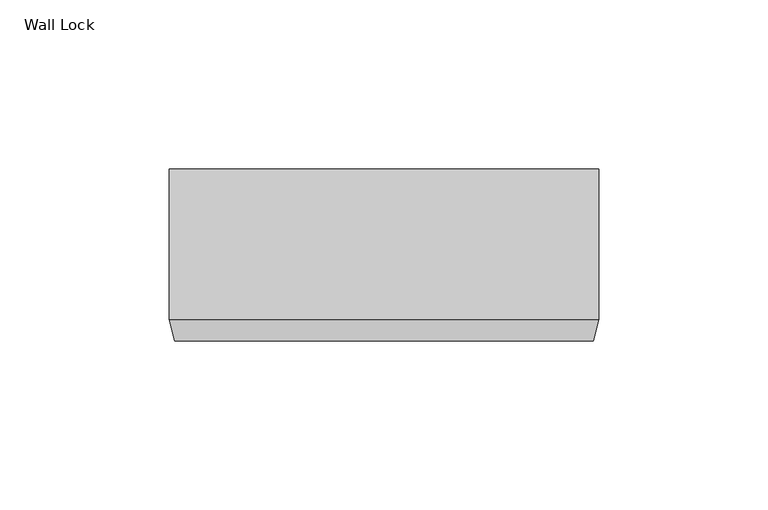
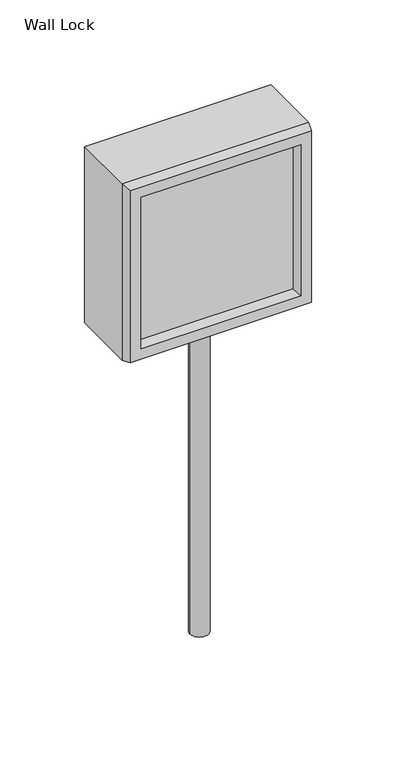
"""IFC4 building model written with IfcOpenShell, lengths in millimetres: furniture geometry, HermanMiller_Carts_CT708_WallLock : Wall Lock."""

from ifc_helpers import new_model, si_unit, frame, origin, place, context, project, spatial, circle_curve, source, transform, mapped, element, save
from ifc_brep_helpers import plane_surface, cylinder_surface, advanced_brep


def wall_lock_8c3d628b(model_context):
    return source(origin(), model_context, "Body", "AdvancedBrep", [
        advanced_brep(
        [(63.5, 0.0, 1196.9813846), (-63.5, 0.0, 1196.9813846), (-63.5, -44.45, 1196.9813846), (63.5, -44.45, 1196.9813846), (63.5, 0.0, 1069.9813846), (63.5, -44.45, 1069.9813846), (-63.5, -44.45, 1069.9813846), (-63.5, 0.0, 1069.9813846), (-6.35, -25.4, 1069.9813846), (6.35, -25.4, 1069.9813846), (-52.738532, -44.45, 1186.2199166), (-52.738532, -44.45, 1080.7428526), (52.738532, -44.45, 1080.7428526), (52.738532, -44.45, 1186.2199166), (-61.7985226, -50.8, 1071.682862), (-61.7985226, -50.8, 1195.2799073), (-54.4400094, -50.8, 1079.0413752), (-54.4400094, -50.8, 1187.921394), (61.7985226, -50.8, 1195.2799073), (54.4400094, -50.8, 1187.921394), (61.7985226, -50.8, 1071.682862), (54.4400094, -50.8, 1079.0413752), (-6.35, -25.4, 841.3813846), (6.35, -25.4, 841.3813846)],
        [
            (0, 1),
            (1, 2),
            (2, 3),
            (3, 0),
            (4, 5),
            (5, 6),
            (6, 7),
            (7, 4),
            (8, 9, circle_curve(frame((0.0, -25.4, 1069.9813846), z_axis=(0.0, 0.0, 1.0), x_axis=(1.0, 0.0, 0.0)), 6.35)),
            (9, 8, circle_curve(frame((0.0, -25.4, 1069.9813846), z_axis=(0.0, 0.0, 1.0), x_axis=(1.0, 0.0, 0.0)), 6.35)),
            (0, 4),
            (7, 1),
            (6, 2),
            (10, 11),
            (11, 12),
            (12, 13),
            (13, 10),
            (3, 5),
            (6, 14),
            (14, 15),
            (15, 2),
            (16, 11),
            (10, 17),
            (17, 16),
            (15, 18),
            (18, 3),
            (13, 19),
            (19, 17),
            (18, 20),
            (20, 5),
            (12, 21),
            (21, 19),
            (20, 14),
            (16, 21),
            (22, 23, circle_curve(frame((0.0, -25.4, 841.3813846), z_axis=(0.0, 0.0, -1.0), x_axis=(1.0, 0.0, 0.0)), 6.35)),
            (23, 22, circle_curve(frame((0.0, -25.4, 841.3813846), z_axis=(0.0, 0.0, -1.0), x_axis=(1.0, 0.0, 0.0)), 6.35)),
            (23, 9),
            (8, 22),
        ],
        [
            plane_surface(frame((-70.4155875, 0.0, 1196.9813846), z_axis=(0.0, 0.0, 1.0), x_axis=(-1.0, 0.0, 0.0))),
            plane_surface(frame((-70.4155875, 0.0, 1069.9813846), z_axis=(0.0, 0.0, -1.0), x_axis=(1.0, 0.0, 0.0))),
            plane_surface(frame((63.5, 0.0, 1196.9813846), z_axis=(0.0, 1.0, 0.0), x_axis=(0.0, 0.0, -1.0))),
            plane_surface(frame((-63.5, 0.0, 1196.9813846), z_axis=(-1.0, 0.0, 0.0), x_axis=(0.0, 0.0, -1.0))),
            plane_surface(frame((-63.5, -44.45, 1196.9813846), z_axis=(0.0, -1.0, 0.0), x_axis=(0.0, 0.0, -1.0))),
            plane_surface(frame((63.5, -44.45, 1196.9813846), z_axis=(1.0, 0.0, 0.0), x_axis=(0.0, 0.0, -1.0))),
            plane_surface(frame((-61.7985226, -50.8, 1071.682862), z_axis=(-0.9659258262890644, -0.2588190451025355, 0.0), x_axis=(0.0, 0.0, 1.0))),
            plane_surface(frame((-52.738532, -44.45, 1080.7428526), z_axis=(0.9659258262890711, -0.25881904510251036, 0.0), x_axis=(0.0, 0.0, 1.0))),
            plane_surface(frame((-61.7985226, -50.8, 1195.2799073), z_axis=(0.0, -0.2588190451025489, 0.9659258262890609), x_axis=(1.0, 0.0, 0.0))),
            plane_surface(frame((-52.738532, -44.45, 1186.2199166), z_axis=(0.0, -0.258819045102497, -0.9659258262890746), x_axis=(1.0, 0.0, 0.0))),
            plane_surface(frame((61.7985226, -50.8, 1195.2799073), z_axis=(0.9659258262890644, -0.2588190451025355, 0.0), x_axis=(0.0, 0.0, -1.0))),
            plane_surface(frame((52.738532, -44.45, 1186.2199166), z_axis=(-0.9659258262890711, -0.25881904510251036, 0.0), x_axis=(0.0, 0.0, -1.0))),
            plane_surface(frame((61.7985226, -50.8, 1071.682862), z_axis=(0.0, -0.2588190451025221, -0.965925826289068), x_axis=(-1.0, 0.0, 0.0))),
            plane_surface(frame((52.738532, -44.45, 1080.7428526), z_axis=(0.0, -0.25881904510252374, 0.9659258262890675), x_axis=(-1.0, 0.0, 0.0))),
            plane_surface(frame((54.4400094, -50.8, 1079.0413752), z_axis=(0.0, -1.0, 0.0), x_axis=(-1.0, 0.0, 0.0))),
            plane_surface(frame((6.35, -25.4, 841.3813846), z_axis=(0.0, 0.0, -1.0), x_axis=(0.0, -1.0, 0.0))),
            cylinder_surface(frame((0.0, -25.4, 841.3813846), z_axis=(0.0, 0.0, 1.0), x_axis=(1.0, 0.0, 0.0)), 6.35),
        ],
        [
            (0, [[1, 2, 3, 4]]),
            (1, [[5, 6, 7, 8], [9, 10]]),
            (2, [[-1, 11, -8, 12]]),
            (3, [[-2, -12, -7, 13]]),
            (4, [[14, 15, 16, 17]]),
            (5, [[-4, 18, -5, -11]]),
            (6, [[19, 20, 21, -13]]),
            (7, [[22, -14, 23, 24]]),
            (8, [[-21, 25, 26, -3]]),
            (9, [[-23, -17, 27, 28]]),
            (10, [[-26, 29, 30, -18]]),
            (11, [[-27, -16, 31, 32]]),
            (12, [[-19, -6, -30, 33]]),
            (13, [[-22, 34, -31, -15]]),
            (14, [[-20, -33, -29, -25], [-24, -28, -32, -34]]),
            (15, [[35, 36]]),
            (16, [[-36, 37, -9, 38]]),
            (16, [[-35, -38, -10, -37]]),
        ],
    ),
    ])


if __name__ == "__main__":
    model = new_model("IFC4")
    model_context = context("Model", 3, world=origin())
    ifc_project = project(units=[si_unit("LENGTHUNIT", "METRE", prefix="MILLI")], contexts=[model_context])
    site = spatial("IfcSite", under=ifc_project)
    building = spatial("IfcBuilding", under=site)
    placement = place(None, origin())
    wall_lock_shape = wall_lock_8c3d628b(model_context)
    element("IfcFurniture", 1, ObjectType="HermanMiller_Carts_CT708_WallLock : Wall Lock", at=placement, inside=building, context=model_context, shape_type="MappedRepresentation", body=[
        mapped(wall_lock_shape, transform((0.0, 0.0, 0.0), x_axis=(1.0, 0.0, 0.0), y_axis=(0.0, 1.0, 0.0), z_axis=(0.0, 0.0, 1.0))),
    ])
    save(model, "model.ifc")
